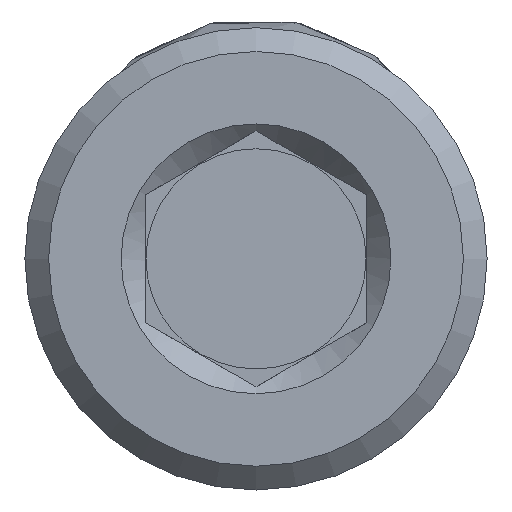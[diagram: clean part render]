
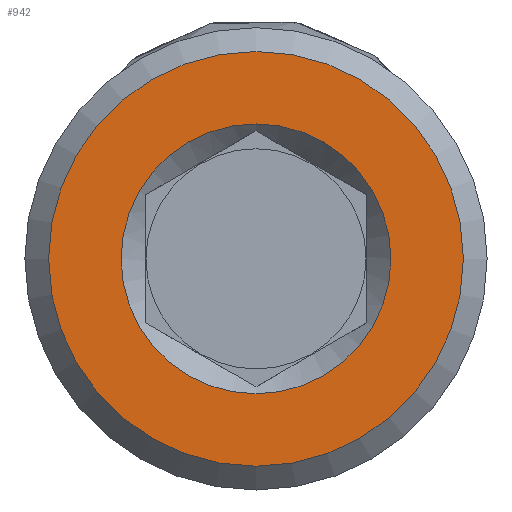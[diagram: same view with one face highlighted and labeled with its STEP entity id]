
A CAD part, front view. The second image highlights one B-rep face of the part: STEP entity #942.
In plain terms, the highlighted planar face has unit normal (0, -1, 0).
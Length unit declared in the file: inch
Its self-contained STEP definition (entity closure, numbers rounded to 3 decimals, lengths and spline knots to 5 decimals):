
#33=FACE_BOUND('',#198,.T.);
#82=CIRCLE('',#1032,0.19);
#83=CIRCLE('',#1034,0.292);
#139=FACE_OUTER_BOUND('',#197,.T.);
#197=EDGE_LOOP('',(#818));
#198=EDGE_LOOP('',(#819));
#432=VERTEX_POINT('',#2139);
#433=VERTEX_POINT('',#2143);
#565=EDGE_CURVE('',#432,#432,#82,.T.);
#566=EDGE_CURVE('',#433,#433,#83,.T.);
#818=ORIENTED_EDGE('',*,*,#566,.F.);
#819=ORIENTED_EDGE('',*,*,#565,.F.);
#893=PLANE('',#1033);
#942=ADVANCED_FACE('',(#139,#33),#893,.T.);
#1032=AXIS2_PLACEMENT_3D('',#2141,#1223,#1224);
#1033=AXIS2_PLACEMENT_3D('',#2142,#1225,#1226);
#1034=AXIS2_PLACEMENT_3D('',#2144,#1227,#1228);
#1223=DIRECTION('center_axis',(0.,-1.,0.));
#1224=DIRECTION('ref_axis',(0.,0.,1.));
#1225=DIRECTION('center_axis',(0.,-1.,0.));
#1226=DIRECTION('ref_axis',(0.,0.,-1.));
#1227=DIRECTION('center_axis',(0.,1.,0.));
#1228=DIRECTION('ref_axis',(0.,0.,1.));
#2139=CARTESIAN_POINT('',(0.,0.,-0.19));
#2141=CARTESIAN_POINT('Origin',(0.,0.,0.));
#2142=CARTESIAN_POINT('Origin',(0.,0.,-0.155));
#2143=CARTESIAN_POINT('',(0.,0.,-0.292));
#2144=CARTESIAN_POINT('Origin',(0.,0.,0.));
